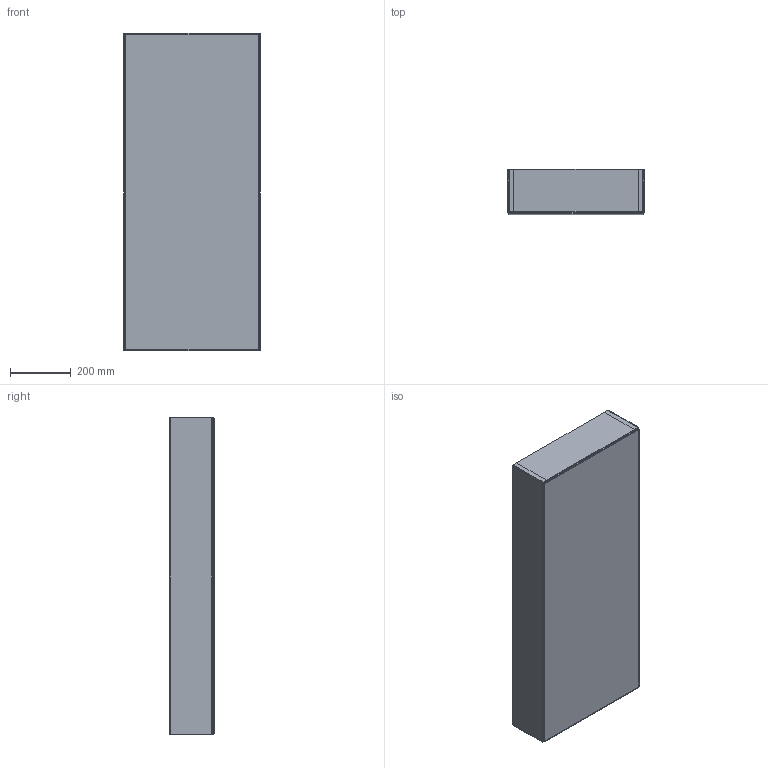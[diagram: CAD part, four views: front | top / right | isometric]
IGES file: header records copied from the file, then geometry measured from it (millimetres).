
Start section: Data from Parasolid IGES Translator 19.0.9, Copyright(c) 2006 Siemens PL M Software. All Rights Reserved.
Global section: file name: noorth-mirror-H 105 D 14,7 W 45_9056.igs; native system: By Siemens PLM Incorporated; preprocessor: XPlus GENERIC/IGES 19.0.9; author: Noname; organization: Noname; date: 20200519.094942; units: metre
Bounding box: 449.82 x 147 x 1050 mm (x, y, z)
Volume: 12827371.3 mm3; surface area: 3674462.6 mm2
Topology: 12 solids, 12 shells, 196 faces, 372 edges, 200 vertices
Faces by surface type: plane 196
